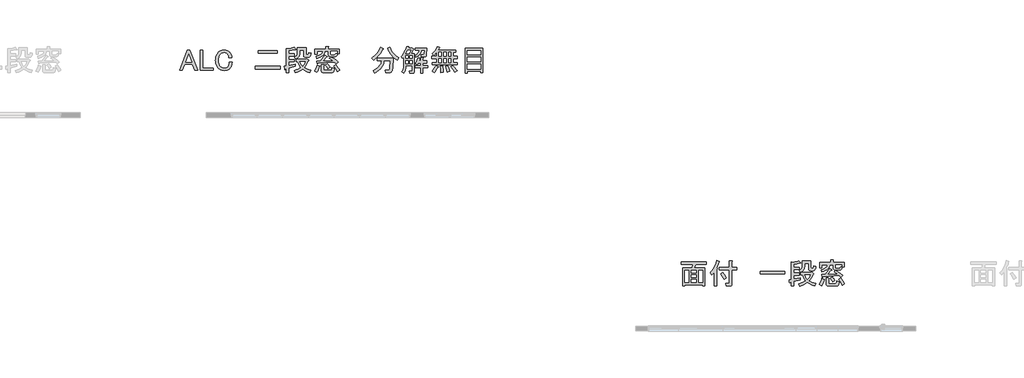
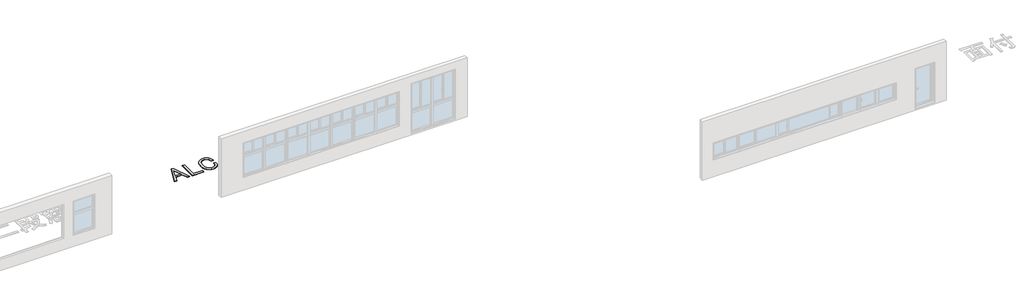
# One storey, part 4 of 9: 2 proxies.
"""IFC4 building model written with IfcOpenShell, lengths in millimetres."""

from ifc_helpers import new_model, si_unit, origin, origin_with_axes, place, context, project, spatial, polyline, outline, extrude, element, save

model = new_model("IFC4")

# Units and contexts
model_context = context("Model", 3, world=origin())
ifc_project = project(units=[si_unit("LENGTHUNIT", "METRE", prefix="MILLI")], contexts=[model_context])

# Site, building, storey
site = spatial("IfcSite", under=ifc_project)
building = spatial("IfcBuilding", under=site)
storey = spatial("IfcBuildingStorey", under=building, Name="レベル 1", Elevation=0.0)

# Proxies
placement = place(None, origin())
element("IfcBuildingElementProxy", 1, Name="600mm Arial", ObjectType="600mm Arial", at=placement, inside=storey, context=model_context, shape_type="SweptSolid", body=[
    extrude(outline(polyline([(63693.1892913, -5796.3801084), (64024.9668273, -4952.2990244), (64122.5484555, -4952.2990244), (64454.3259914, -5796.3801084), (64337.2280376, -5796.3801084), (64234.7673279, -5549.6937523), (63912.7479548, -5549.6937523), (63810.2872452, -5796.3801084), (63693.1892913, -5796.3801084)]), holes=[polyline([(64073.7576414, -5113.3087109), (63946.9015247, -5449.9653283), (64200.6137581, -5449.9653283), (64073.7576414, -5113.3087109)])]), origin_with_axes(), (0.0, 0.0, 1.0), 10.0),
    extrude(outline(polyline([(64563.0319253, -4962.0571872), (64675.2507977, -4962.0571872), (64675.2507977, -5703.6775616), (65124.1262875, -5703.6775616), (65124.1262875, -5803.4059857), (64563.0319253, -5803.4059857), (64563.0319253, -4962.0571872)])), origin_with_axes(), (0.0, 0.0, 1.0), 10.0),
    extrude(outline(polyline([(65208.241651, -5381.6581885), (65210.1475422, -5329.4367703), (65215.8652157, -5280.1123066), (65225.3946716, -5233.6847976), (65238.7359098, -5190.1542431), (65255.8889304, -5149.5206433), (65276.8537334, -5111.783998), (65301.6303186, -5076.9443073), (65330.2186863, -5045.0015712), (65354.2329151, -5023.2744118), (65379.9243282, -5004.4442069), (65407.2929254, -4988.5109567), (65436.338707, -4975.4746611), (65467.0616727, -4965.33532), (65499.4618227, -4958.0929335), (65569.2936754, -4952.2990244), (65638.5156429, -4957.4830484), (65699.8091032, -4973.0351204), (65727.482643, -4984.6991744), (65753.1740561, -4998.9552404), (65776.8833423, -5015.8033183), (65798.6105017, -5035.2434083), (65837.3382104, -5082.2045669), (65865.6978711, -5135.2645773), (65883.6894838, -5194.4234394), (65891.3130485, -5259.6811532), (65774.2150947, -5259.6811532), (65766.59153, -5211.5002243), (65753.4789987, -5169.4181471), (65734.8775008, -5133.4349217), (65710.7870363, -5103.5505481), (65679.9878349, -5077.9353707), (65646.1392076, -5059.6388154), (65609.2411545, -5048.6608822), (65569.2936754, -5045.0015712), (65526.6017131, -5049.2707674), (65486.3492914, -5062.0783561), (65448.5364105, -5083.4243373), (65413.1630703, -5113.3087109), (65392.5794456, -5136.7130546), (65374.7403042, -5163.0143528), (65359.645646, -5192.2126056), (65347.2954712, -5224.307813), (65337.6897797, -5259.299975), (65330.8285715, -5297.1890916), (65325.3396049, -5381.6581885), (65330.8285715, -5466.1272854), (65337.6897797, -5504.016402), (65347.2954712, -5539.008564), (65359.645646, -5571.1037714), (65374.7403042, -5600.3020242), (65392.5794456, -5626.6033225), (65413.1630703, -5650.0076661), (65446.706755, -5677.7574416), (65483.9097507, -5697.5787099), (65524.7720575, -5709.4714708), (65569.2936754, -5713.4357244), (65615.3400062, -5710.081356), (65655.8973705, -5700.0182506), (65690.9657681, -5683.2464082), (65720.5451991, -5659.7658289), (65750.4295728, -5621.952948), (65771.775554, -5576.8214449), (65784.5831427, -5524.3713198), (65788.8523389, -5464.6025725), (65905.9502928, -5464.6025725), (65898.0217855, -5542.9728177), (65889.9408069, -5578.7273361), (65879.115345, -5612.1947852), (65865.5453998, -5643.3751648), (65849.2309714, -5672.268475), (65830.1720596, -5698.8747159), (65808.3686645, -5723.1938873), (65786.4890338, -5742.6339773), (65762.3223337, -5759.4820553), (65735.8685642, -5773.7381213), (65707.1277253, -5785.4021753), (65642.7848392, -5800.9542472), (65569.2936754, -5806.1382712), (65499.4618227, -5800.3443621), (65467.0616727, -5793.1019756), (65436.338707, -5782.9626345), (65407.2929254, -5769.9263389), (65379.9243282, -5753.9930887), (65354.2329151, -5735.1628839), (65330.2186863, -5713.4357244), (65301.6303186, -5681.569224), (65276.8537334, -5646.9582402), (65255.8889304, -5609.6027732), (65238.7359098, -5569.5028228), (65225.3946716, -5526.6583892), (65215.8652157, -5481.0694723), (65210.1475422, -5432.736072), (65208.241651, -5381.6581885)])), origin_with_axes(), (0.0, 0.0, 1.0), 10.0),
    extrude(outline(polyline([(67813.2807979, -4971.81535), (67813.2807979, -5084.0342225), (67013.1114465, -5084.0342225), (67013.1114465, -4971.81535), (67813.2807979, -4971.81535)])), origin_with_axes(), (0.0, 0.0, 1.0), 10.0),
    extrude(outline(polyline([(67935.2578331, -5635.3704219), (67935.2578331, -5747.5892943), (66881.3762484, -5747.5892943), (66881.3762484, -5635.3704219), (67935.2578331, -5635.3704219)])), origin_with_axes(), (0.0, 0.0, 1.0), 10.0),
    extrude(outline(polyline([(69179.4235929, -5903.7198995), (69098.3088644, -5873.5305832), (69020.853447, -5836.6325301), (68947.0573407, -5793.02574), (68876.9205454, -5742.7102129), (68813.4924871, -5789.6713715), (68740.3062659, -5832.973219), (68657.3618819, -5872.6157555), (68564.6593351, -5908.5989809), (68520.7476024, -5806.1382712), (68610.0957808, -5778.0835531), (68687.8561407, -5747.5892943), (68754.0286824, -5714.6554948), (68808.6134057, -5679.2821546), (68765.6165007, -5620.8185616), (68729.3283327, -5559.4031243), (68699.7489017, -5495.0358428), (68676.8782076, -5427.716717), (68603.6919864, -5427.716717), (68603.6919864, -5327.988293), (69033.0511506, -5327.988293), (69052.5674762, -5308.4719673), (69130.6327788, -5371.9000257), (69140.6958842, -5380.7433607), (69141.6107119, -5387.7570403), (69133.3772621, -5392.9410643), (69115.9955345, -5396.2954327), (69077.5727684, -5483.8139555), (69035.4906913, -5560.9644304), (68989.749303, -5627.7468572), (68940.3486038, -5684.161236), (68997.9827529, -5714.9604374), (69063.5454094, -5743.9299833), (69137.0365731, -5771.0698736), (69218.4562442, -5796.3801084), (69179.4235929, -5903.7198995)]), holes=[polyline([(68764.701673, -5427.716717), (68780.8636301, -5475.4341332), (68804.9540946, -5524.322529), (68836.9730664, -5574.3819042), (68876.9205454, -5625.612259), (68915.6482541, -5581.4077815), (68948.8869962, -5533.6903653), (68976.6367717, -5482.4600105), (68998.8975807, -5427.716717), (68764.701673, -5427.716717)])]), origin_with_axes(), (0.0, 0.0, 1.0), 10.0),
    extrude(outline(polyline([(68286.5516947, -4898.6291288), (68346.6253846, -4887.3462531), (68404.8694189, -4873.0139514), (68461.2837977, -4855.6322239), (68515.868521, -4835.2010705), (68584.1756608, -4913.2663731), (68589.0547422, -4923.6344211), (68584.1756608, -4930.343158), (68569.5384165, -4933.3925839), (68545.1430095, -4932.7826987), (68424.3857446, -4958.3978761), (68296.3098575, -4976.6944314), (68296.3098575, -5108.4296295), (68525.6266838, -5108.4296295), (68525.6266838, -5208.1580535), (68296.3098575, -5208.1580535), (68296.3098575, -5342.6255372), (68530.5057652, -5342.6255372), (68530.5057652, -5442.3539613), (68296.3098575, -5442.3539613), (68296.3098575, -5606.0959334), (68574.4174979, -5547.5469565), (68574.4174979, -5635.3704219), (68296.3098575, -5708.556643), (68296.3098575, -5903.7198995), (68196.5814335, -5903.7198995), (68196.5814335, -5728.0729687), (68145.0583338, -5742.7102129), (68141.7039653, -5756.4326294), (68136.5199413, -5763.4463089), (68129.5062618, -5763.7512515), (68120.6629267, -5757.3474571), (68106.0256825, -5635.3704219), (68196.5814335, -5620.7331776), (68196.5814335, -4879.1128032), (68286.5516947, -4898.6291288)])), origin_with_axes(), (0.0, 0.0, 1.0), 10.0),
    extrude(outline(polyline([(69091.6001275, -5152.3413622), (69114.7757642, -5147.4622808), (69121.7894437, -5141.363429), (69125.7536974, -5132.8250366), (69145.270023, -5054.759734), (69237.9725698, -5079.155141), (69229.6628843, -5119.682011), (69219.3710719, -5154.8052983), (69207.0971328, -5184.525003), (69192.8410668, -5208.8411249), (69176.6028739, -5227.7536643), (69158.3825543, -5241.2626209), (69138.1801078, -5249.3679949), (69115.9955345, -5252.0697862), (69013.5348249, -5252.0697862), (68992.4480449, -5250.6640009), (68974.1728356, -5246.4466449), (68958.709197, -5239.4177183), (68946.057129, -5229.5772209), (68936.2166317, -5216.925153), (68929.187705, -5201.4615143), (68924.970349, -5183.186305), (68923.5645637, -5162.099525), (68923.5645637, -4949.5667388), (68754.9435101, -4949.5667388), (68754.9435101, -5093.7923853), (68752.0465556, -5134.6546921), (68743.3556918, -5171.8576878), (68728.8709189, -5205.4013725), (68708.5922367, -5235.2857462), (68682.5196454, -5261.5108088), (68650.653145, -5284.0765603), (68612.9927353, -5302.9830008), (68569.5384165, -5318.2301302), (68530.5057652, -5230.4066648), (68559.7345123, -5221.7920367), (68585.0660931, -5210.5853965), (68606.5005076, -5196.7867444), (68624.0377559, -5180.3960803), (68637.6778379, -5161.4134042), (68647.4207536, -5139.8387161), (68653.266503, -5115.672016), (68655.2150861, -5088.9133039), (68655.2150861, -4849.8383147), (69023.2929877, -4849.8383147), (69023.2929877, -5113.3087109), (69025.4275859, -5130.3854959), (69031.8313802, -5142.5831994), (69042.5043708, -5149.9018215), (69057.4465576, -5152.3413622), (69091.6001275, -5152.3413622)])), origin_with_axes(), (0.0, 0.0, 1.0), 10.0),
    extrude(outline(polyline([(70428.468434, -4913.2663731), (70428.468434, -5103.5505481), (70345.5240501, -5103.5505481), (70329.9719781, -5154.5247511), (70319.6801657, -5174.5503309), (70307.7111691, -5190.9348962), (70294.0649883, -5203.6784469), (70278.7416232, -5212.7809832), (70261.741074, -5218.2425049), (70243.0633404, -5220.0630122), (70038.1419212, -5220.0630122), (70005.1837262, -5214.6106387), (69992.235864, -5207.7951719), (69981.6421584, -5198.2535183), (69973.4026097, -5185.985678), (69967.5172178, -5170.9916509), (69962.8089042, -5132.8250366), (69962.8089042, -5000.5043487), (69818.5832577, -5000.5043487), (69812.255699, -5049.7678238), (69795.7125636, -5095.7806109), (69768.9538515, -5138.5427101), (69731.9795626, -5178.0541212), (69684.7896971, -5214.3148444), (69627.3842549, -5247.3248796), (69559.763236, -5277.0842267), (69481.9266403, -5303.5928859), (69452.6521519, -5210.8903391), (69515.5465607, -5192.2766436), (69570.0550483, -5171.4673613), (69616.1776148, -5148.4624925), (69653.9142601, -5123.262037), (69683.2649842, -5095.8659949), (69704.2297871, -5066.2743661), (69716.8086689, -5034.4871507), (69721.0016295, -5000.5043487), (69491.6848032, -5000.5043487), (69491.6848032, -5127.9459551), (69391.9563791, -5127.9459551), (69391.9563791, -4913.2663731), (69855.4691132, -4913.2663731), (69855.4691132, -4796.1684192), (69950.3184558, -4796.1684192), (69965.2606426, -4799.8277303), (69971.0545518, -4805.926582), (69967.7001833, -4814.4649745), (69955.1975372, -4825.4429077), (69955.1975372, -4913.2663731), (70428.468434, -4913.2663731)]), holes=[polyline([(70213.788852, -5132.8250366), (70229.340924, -5129.1657255), (70241.8435701, -5118.1877923), (70251.2967903, -5099.891237), (70257.7005847, -5074.2760596), (70328.74001, -5093.7923853), (70328.74001, -5000.5043487), (70062.5373282, -5000.5043487), (70062.5373282, -5103.5505481), (70064.3669838, -5116.3581368), (70069.8559503, -5125.5064144), (70079.004228, -5130.995381), (70091.8118167, -5132.8250366), (70213.788852, -5132.8250366)])]), origin_with_axes(), (0.0, 0.0, 1.0), 10.0),
    extrude(outline(polyline([(69760.0342808, -5900.9876139), (69738.9475008, -5899.5818285), (69720.6722915, -5895.3644725), (69705.2086528, -5888.3355459), (69692.5565849, -5878.4950486), (69682.7160875, -5865.8429806), (69675.6871609, -5850.3793419), (69671.4698049, -5832.1041326), (69670.0640195, -5811.0173527), (69670.0640195, -5567.0632821), (69764.9133622, -5567.0632821), (69779.855549, -5570.7225932), (69785.6494582, -5576.8214449), (69782.2950897, -5585.3598374), (69769.7924436, -5596.3377706), (69769.7924436, -5767.10562), (69771.6220991, -5782.0478068), (69777.1110657, -5792.7207974), (69786.2593433, -5799.1245917), (69799.066932, -5801.2591898), (70057.6582468, -5801.2591898), (70069.1698295, -5799.5820056), (70079.3091706, -5794.5504529), (70095.4711278, -5774.4242421), (70106.1441183, -5740.8805574), (70111.3281423, -5693.9193988), (70218.6679334, -5718.3148059), (70213.788852, -5761.1287452), (70206.4702298, -5798.2341594), (70196.712067, -5829.6310482), (70184.5143635, -5855.3194119), (70169.8771193, -5875.2992502), (70152.8003343, -5889.5705634), (70133.2840087, -5898.1333512), (70111.3281423, -5900.9876139), (69760.0342808, -5900.9876139)])), origin_with_axes(), (0.0, 0.0, 1.0), 10.0),
    extrude(outline(polyline([(69525.838373, -5508.5143052), (69522.4840046, -5522.2367217), (69517.2999806, -5529.2504012), (69510.286301, -5529.5553438), (69501.442966, -5523.1515494), (69477.0475589, -5415.8117584), (69628.2990827, -5415.8117584), (69813.7041763, -5157.2204436), (69911.2858045, -5215.7694205), (69911.5907471, -5225.832526), (69907.6264934, -5231.6264351), (69899.3930436, -5233.1511481), (69886.8903974, -5230.4066648), (69721.0016295, -5415.8117584), (70140.6026308, -5391.4163513), (70073.5152614, -5338.9662262), (70008.8674327, -5298.7138045), (70072.2954911, -5245.043909), (70135.1136642, -5274.9282826), (70206.4702298, -5320.6696709), (70286.3651879, -5382.2680737), (70374.7985385, -5459.7234911), (70286.9750731, -5528.0306308), (70218.6679334, -5459.7234911), (69525.838373, -5508.5143052)])), origin_with_axes(), (0.0, 0.0, 1.0), 10.0),
    extrude(outline(polyline([(70277.2169103, -5567.0632821), (70325.7027818, -5621.952948), (70368.6996868, -5679.2821546), (70406.2076251, -5739.0509018), (70438.2265969, -5801.2591898), (70340.6449686, -5864.6872482), (70309.8457672, -5796.3801084), (70275.99714, -5732.9520501), (70239.0990868, -5674.4030732), (70199.1516077, -5620.7331776), (70277.2169103, -5567.0632821)])), origin_with_axes(), (0.0, 0.0, 1.0), 10.0),
    extrude(outline(polyline([(69940.560293, -5723.1938873), (69922.8736228, -5690.2600877), (69899.088101, -5654.8867475), (69833.2205019, -5576.8214449), (69916.1648859, -5523.1515494), (69947.2690299, -5549.9864972), (69977.1534035, -5581.7005264), (70005.8180068, -5618.2936369), (70033.2628398, -5659.7658289), (69940.560293, -5723.1938873)])), origin_with_axes(), (0.0, 0.0, 1.0), 10.0),
    extrude(outline(polyline([(69384.3450121, -5840.2918411), (69420.0232949, -5771.0698736), (69448.9928408, -5704.897332), (69471.2536498, -5641.7742162), (69486.8057218, -5581.7005264), (69584.38735, -5615.8540962), (69591.4010295, -5623.1727183), (69592.9257424, -5630.4913405), (69588.9614888, -5637.8099626), (69579.5082686, -5645.1285847), (69560.6018281, -5711.6060689), (69538.0360766, -5774.4242421), (69511.811014, -5833.5831042), (69481.9266403, -5889.0826552), (69384.3450121, -5840.2918411)])), origin_with_axes(), (0.0, 0.0, 1.0), 10.0),
    extrude(outline(polyline([(72691.1912291, -5293.8347231), (72671.6749035, -5689.0403174), (72667.3294716, -5738.2123097), (72659.1722573, -5780.8280364), (72647.2032608, -5816.8874975), (72631.4224818, -5846.3906929), (72611.8299205, -5869.3376226), (72588.4255769, -5885.7282868), (72561.2094509, -5895.5626852), (72530.1815425, -5898.8408181), (72383.8091002, -5898.8408181), (72369.171856, -5786.6219456), (72491.1488913, -5786.6219456), (72519.2036094, -5781.4379216), (72539.9397054, -5765.8858496), (72553.3571792, -5739.9657296), (72559.456031, -5703.6775616), (72578.9723567, -5393.5631472), (72310.6228791, -5393.5631472), (72305.7437976, -5425.5699212), (72292.2500881, -5491.9711698), (72268.8457445, -5557.0001767), (72235.5307667, -5620.656942), (72192.3051548, -5682.9414656), (72139.1689089, -5743.8537476), (72076.1220288, -5803.393788), (72003.1645145, -5861.5615866), (71920.2963662, -5918.3571437), (71847.110145, -5825.6545969), (71921.9735504, -5780.2181513), (71987.9936208, -5734.1718204), (72045.1703561, -5687.5156044), (72093.5037563, -5640.2495033), (72132.9938214, -5592.3735169), (72163.6405516, -5543.8876454), (72185.4439466, -5494.7918887), (72198.4040066, -5445.0862469), (72208.1621694, -5393.5631472), (72022.7570758, -5393.5631472), (72022.7570758, -5293.8347231), (72691.1912291, -5293.8347231)])), origin_with_axes(), (0.0, 0.0, 1.0), 10.0),
    extrude(outline(polyline([(72252.0739021, -4908.3872917), (72220.5885799, -4971.1292292), (72184.6815901, -5032.4989251), (72144.3529329, -5092.4963793), (72099.602608, -5151.1215919), (72050.4306157, -5208.3745628), (71996.8369558, -5264.2552921), (71938.8216284, -5318.7637797), (71876.3846335, -5371.9000257), (71798.3193309, -5279.1974789), (71859.6127912, -5233.6847976), (71916.6370551, -5184.9702191), (71969.3921229, -5133.0537435), (72017.8779944, -5077.9353707), (72062.0946697, -5019.6151007), (72102.0421487, -4958.0929335), (72137.7204316, -4893.3688692), (72169.1295181, -4825.4429077), (72261.832065, -4883.9918846), (72272.200113, -4892.8352197), (72274.0297685, -4899.8488992), (72267.3210315, -4905.0329232), (72252.0739021, -4908.3872917)])), origin_with_axes(), (0.0, 0.0, 1.0), 10.0),
    extrude(outline(polyline([(72857.0799971, -5371.9000257), (72792.2034614, -5329.7417129), (72731.7485933, -5281.332077), (72675.7153928, -5226.6711181), (72624.1038597, -5165.7588361), (72576.9139942, -5098.595231), (72534.1457962, -5025.1803029), (72495.7992657, -4945.5140518), (72461.8744028, -4859.5964776), (72554.5769496, -4820.5638263), (72586.0622718, -4895.8846455), (72621.9692616, -4965.7164982), (72662.2979189, -5030.0593843), (72707.0482437, -5088.9133039), (72756.220236, -5142.2782568), (72809.8138959, -5190.1542431), (72867.8292233, -5232.5412629), (72930.2662182, -5269.4393161), (72857.0799971, -5371.9000257)])), origin_with_axes(), (0.0, 0.0, 1.0), 10.0),
    extrude(outline(polyline([(73145.5312901, -5225.5275834), (73111.2801386, -5268.2195457), (73081.517742, -5298.7138045), (73032.7269279, -5215.7694205), (73068.328975, -5176.2031197), (73101.9488954, -5133.1299791), (73133.5866889, -5086.5499988), (73163.2423556, -5036.4631787), (73190.9158955, -4982.8695188), (73216.6073085, -4925.7690192), (73262.0437542, -4801.0475006), (73349.8672196, -4810.8056634), (73354.746301, -4818.1242856), (73354.746301, -4825.4429077), (73349.8672196, -4832.7615298), (73340.1090567, -4840.0801519), (73325.4718125, -4874.2337218), (73447.4488478, -4874.2337218), (73466.9651734, -4849.8383147), (73554.7886388, -4908.3872917), (73530.3932318, -4937.6617801), (73447.4488478, -5093.7923853), (73579.1840459, -5093.7923853), (73579.1840459, -5840.2918411), (73574.609907, -5879.6538304), (73568.8922335, -5895.1174691), (73560.8874906, -5907.769537), (73550.5956782, -5917.6100344), (73538.0167965, -5924.638961), (73505.9978247, -5930.2621023), (73398.6580337, -5930.2621023), (73379.141708, -5830.5336783), (73476.7233362, -5830.5336783), (73488.1403867, -5825.6545969), (73491.9460702, -5811.0173527), (73491.9460702, -5600.6313622), (73232.7692657, -5600.6313622), (73231.1683171, -5648.0407864), (73226.3654713, -5693.0777573), (73218.3607284, -5735.7422748), (73207.1540883, -5776.0343389), (73192.745551, -5813.9539498), (73175.1351165, -5849.5011073), (73154.3227849, -5882.6758115), (73130.3085561, -5913.4780623), (73057.1223349, -5854.9290854), (73077.8431838, -5827.4842524), (73095.8012528, -5796.3801084), (73110.996542, -5761.6166534), (73123.4290513, -5723.1938873), (73133.0987808, -5681.1118101), (73140.0057304, -5635.3704219), (73145.5312901, -5532.9097122), (73145.5312901, -5225.5275834)]), holes=[polyline([(73301.0764054, -4961.4716974), (73274.2414577, -5019.6303478), (73232.7692657, -5093.7923853), (73364.5044638, -5093.7923853), (73427.9325221, -4961.4716974), (73301.0764054, -4961.4716974)]), polyline([(73398.6580337, -5513.3933866), (73491.9460702, -5513.3933866), (73491.9460702, -5385.9517802), (73398.6580337, -5385.9517802), (73398.6580337, -5513.3933866)]), polyline([(73323.9105065, -5513.3933866), (73323.9105065, -5385.9517802), (73232.7692657, -5385.9517802), (73232.7692657, -5513.3933866), (73323.9105065, -5513.3933866)]), polyline([(73232.7692657, -5181.0303609), (73232.7692657, -5298.7138045), (73323.9105065, -5298.7138045), (73323.9105065, -5181.0303609), (73232.7692657, -5181.0303609)]), polyline([(73398.6580337, -5181.0303609), (73398.6580337, -5298.7138045), (73491.9460702, -5298.7138045), (73491.9460702, -5181.0303609), (73398.6580337, -5181.0303609)])]), origin_with_axes(), (0.0, 0.0, 1.0), 10.0),
    extrude(outline(polyline([(73871.9289305, -5132.8250366), (73969.5105587, -5132.8250366), (73984.7576881, -5130.995381), (73996.3455065, -5125.5064144), (74004.2740138, -5116.3581368), (74008.54321, -5103.5505481), (74023.1804542, -4946.8344532), (73876.8080119, -4946.8344532), (73868.9557403, -5000.3579763), (73855.1570882, -5049.5879077), (73835.4120556, -5094.5242475), (73809.7206425, -5135.1669956), (73778.082849, -5171.5161521), (73740.498675, -5203.571717), (73696.9681205, -5231.3336902), (73647.4911856, -5254.8020718), (73608.4585343, -5171.8576878), (73648.6347203, -5153.9972005), (73683.7793536, -5133.2031654), (73713.8924342, -5109.4755826), (73738.9739621, -5082.8144521), (73759.0239372, -5053.2197739), (73774.0423597, -5020.691548), (73784.0292295, -4985.2297745), (73788.9845465, -4946.8344532), (73632.8539414, -4946.8344532), (73632.8539414, -4859.5964776), (74115.883001, -4859.5964776), (74091.487594, -5142.5831994), (74084.4739145, -5181.9451887), (74077.5364706, -5197.4088273), (74068.3119573, -5210.0608953), (74056.8003746, -5219.9013926), (74043.0017225, -5226.9303193), (74008.54321, -5232.5534606), (73881.6870933, -5232.5534606), (73871.9289305, -5132.8250366)])), origin_with_axes(), (0.0, 0.0, 1.0), 10.0),
    extrude(outline(polyline([(73945.1151517, -5696.0661946), (73945.1151517, -5918.3571437), (73857.877176, -5918.3571437), (73857.877176, -5696.0661946), (73623.0957786, -5696.0661946), (73623.0957786, -5596.3377706), (73857.877176, -5596.3377706), (73857.877176, -5491.1447754), (73754.8309767, -5491.1447754), (73701.1610811, -5571.9423635), (73627.97486, -5518.272468), (73663.3482002, -5465.2124577), (73691.4029183, -5408.4931363), (73712.1390143, -5348.1145038), (73725.5564882, -5284.0765603), (73813.3799536, -5298.7138045), (73818.259035, -5306.0324266), (73818.259035, -5313.3510488), (73813.3799536, -5320.6696709), (73803.6217908, -5327.988293), (73784.1054651, -5391.4163513), (73857.877176, -5391.4163513), (73857.877176, -5269.4393161), (73940.2360703, -5269.4393161), (73955.1782571, -5273.0986271), (73960.9721663, -5279.1974789), (73957.6177978, -5287.7358714), (73945.1151517, -5298.7138045), (73945.1151517, -5391.4163513), (74115.883001, -5391.4163513), (74115.883001, -5491.1447754), (73945.1151517, -5491.1447754), (73945.1151517, -5596.3377706), (74159.7947337, -5596.3377706), (74159.7947337, -5696.0661946), (73945.1151517, -5696.0661946)])), origin_with_axes(), (0.0, 0.0, 1.0), 10.0),
    extrude(outline(polyline([(75296.6207025, -5879.3244924), (75214.8960888, -5769.5451607), (75116.0946903, -5654.8867475), (75194.1599928, -5601.216852), (75240.8162088, -5641.7742162), (75288.08231, -5690.2600877), (75335.9582963, -5746.6744666), (75384.4441679, -5811.0173527), (75296.6207025, -5879.3244924)])), origin_with_axes(), (0.0, 0.0, 1.0), 10.0),
    extrude(outline(polyline([(74584.2748165, -4942.5408615), (75330.7742723, -4942.5408615), (75330.7742723, -5042.2692856), (75228.3135627, -5042.2692856), (75228.3135627, -5206.0112577), (75399.0814121, -5206.0112577), (75399.0814121, -5305.7396818), (75228.3135627, -5305.7396818), (75228.3135627, -5469.4816539), (75384.4441679, -5469.4816539), (75384.4441679, -5569.2100779), (74335.4416645, -5569.2100779), (74335.4416645, -5469.4816539), (74523.5790437, -5469.4816539), (74523.5790437, -5305.7396818), (74320.8044203, -5305.7396818), (74320.8044203, -5206.0112577), (74523.5790437, -5206.0112577), (74523.5790437, -5040.1224898), (74490.3037085, -5085.2539928), (74457.6138631, -5123.0668737), (74425.5095074, -5153.5611326), (74393.9906415, -5176.7367693), (74335.4416645, -5093.7923853), (74401.6142062, -5033.4137528), (74458.6384702, -4964.4967279), (74506.5144565, -4887.0413105), (74545.2421652, -4801.0475006), (74642.8237934, -4830.3219891), (74649.2275878, -4839.1653241), (74648.9226452, -4846.1790037), (74641.9089656, -4851.3630277), (74628.1865492, -4854.7173961), (74584.2748165, -4942.5408615)]), holes=[polyline([(75028.2712249, -5042.2692856), (75028.2712249, -5206.0112577), (75128.5851387, -5206.0112577), (75128.5851387, -5042.2692856), (75028.2712249, -5042.2692856)]), polyline([(74823.3498056, -5042.2692856), (74823.3498056, -5206.0112577), (74928.5428008, -5206.0112577), (74928.5428008, -5042.2692856), (74823.3498056, -5042.2692856)]), polyline([(74623.3074678, -5206.0112577), (74723.6213816, -5206.0112577), (74723.6213816, -5042.2692856), (74623.3074678, -5042.2692856), (74623.3074678, -5206.0112577)]), polyline([(75028.2712249, -5469.4816539), (75128.5851387, -5469.4816539), (75128.5851387, -5305.7396818), (75028.2712249, -5305.7396818), (75028.2712249, -5469.4816539)]), polyline([(74823.3498056, -5305.7396818), (74823.3498056, -5469.4816539), (74928.5428008, -5469.4816539), (74928.5428008, -5305.7396818), (74823.3498056, -5305.7396818)]), polyline([(74623.3074678, -5305.7396818), (74623.3074678, -5469.4816539), (74723.6213816, -5469.4816539), (74723.6213816, -5305.7396818), (74623.3074678, -5305.7396818)])]), origin_with_axes(), (0.0, 0.0, 1.0), 10.0),
    extrude(outline(polyline([(74974.6013293, -5879.3244924), (74936.7884484, -5739.0509018), (74901.4151082, -5630.4913405), (74998.9967364, -5601.216852), (75039.249158, -5708.556643), (75081.9411204, -5845.1709225), (74974.6013293, -5879.3244924)])), origin_with_axes(), (0.0, 0.0, 1.0), 10.0),
    extrude(outline(polyline([(74594.0329793, -5645.1285847), (74600.4367737, -5653.9719197), (74600.1318311, -5660.9855993), (74593.1181515, -5666.1696233), (74579.3957351, -5669.5239917), (74538.2284857, -5740.5756148), (74497.6711214, -5802.4789602), (74457.7236424, -5855.2340279), (74418.3860485, -5898.8408181), (74340.3207459, -5830.5336783), (74388.8066175, -5771.9847014), (74431.8035224, -5713.4357244), (74469.3114607, -5654.8867475), (74501.3304325, -5596.3377706), (74594.0329793, -5645.1285847)])), origin_with_axes(), (0.0, 0.0, 1.0), 10.0),
    extrude(outline(polyline([(74779.4380729, -5610.9750148), (74791.940719, -5681.4167527), (74800.1741689, -5751.2486054), (74804.1384226, -5820.4705729), (74803.83348, -5889.0826552), (74696.4936889, -5898.8408181), (74691.6146075, -5752.4683757), (74676.9773633, -5615.8540962), (74779.4380729, -5610.9750148)])), origin_with_axes(), (0.0, 0.0, 1.0), 10.0),
    extrude(outline(polyline([(76472.4793225, -5893.9617366), (76372.7508984, -5893.9617366), (76372.7508984, -5842.4386369), (75823.5614948, -5842.4386369), (75823.5614948, -5913.4780623), (75723.8330708, -5913.4780623), (75723.8330708, -4864.475559), (76472.4793225, -4864.475559), (76472.4793225, -5893.9617366)]), holes=[polyline([(76372.7508984, -5147.4622808), (76372.7508984, -4964.203983), (75823.5614948, -4964.203983), (75823.5614948, -5147.4622808), (76372.7508984, -5147.4622808)]), polyline([(76372.7508984, -5435.328084), (76372.7508984, -5247.1907048), (75823.5614948, -5247.1907048), (75823.5614948, -5435.328084), (76372.7508984, -5435.328084)]), polyline([(76372.7508984, -5742.7102129), (76372.7508984, -5535.0565081), (75823.5614948, -5535.0565081), (75823.5614948, -5742.7102129), (76372.7508984, -5742.7102129)])]), origin_with_axes(), (0.0, 0.0, 1.0), 10.0),
])
element("IfcBuildingElementProxy", 2, Name="600mm Arial", ObjectType="600mm Arial", at=placement, inside=storey, context=model_context, shape_type="SweptSolid", body=[
    extrude(outline(polyline([(85826.523268, -14884.2035738), (85726.794844, -14884.2035738), (85726.794844, -14842.4386369), (84982.442184, -14842.4386369), (84982.442184, -14903.7198995), (84882.7137599, -14903.7198995), (84882.7137599, -14132.8250366), (85284.9452314, -14132.8250366), (85323.9778827, -13978.8412272), (84826.3115788, -13978.8412272), (84826.3115788, -13879.1128032), (85885.072245, -13879.1128032), (85885.072245, -13978.8412272), (85436.1967552, -13978.8412272), (85382.5268597, -14132.8250366), (85826.523268, -14132.8250366), (85826.523268, -14884.2035738)]), holes=[polyline([(85151.0632375, -14742.7102129), (85151.0632375, -14232.5534606), (84982.442184, -14232.5534606), (84982.442184, -14742.7102129), (85151.0632375, -14742.7102129)]), polyline([(85458.4453664, -14742.7102129), (85458.4453664, -14629.9058507), (85250.7916616, -14629.9058507), (85250.7916616, -14742.7102129), (85458.4453664, -14742.7102129)]), polyline([(85458.4453664, -14542.6678751), (85458.4453664, -14439.6216757), (85250.7916616, -14439.6216757), (85250.7916616, -14542.6678751), (85458.4453664, -14542.6678751)]), polyline([(85458.4453664, -14232.5534606), (85250.7916616, -14232.5534606), (85250.7916616, -14352.3837), (85458.4453664, -14352.3837), (85458.4453664, -14232.5534606)]), polyline([(85726.794844, -14232.5534606), (85558.1737904, -14232.5534606), (85558.1737904, -14742.7102129), (85726.794844, -14742.7102129), (85726.794844, -14232.5534606)])]), origin_with_axes(), (0.0, 0.0, 1.0), 10.0),
    extrude(outline(polyline([(86407.1339559, -13898.6291288), (86390.6670562, -13959.6176465), (86370.5408453, -14020.6061641), (86346.7553235, -14081.5946817), (86319.3104905, -14142.5831994), (86338.216931, -14148.6820511), (86346.1454383, -14157.2204436), (86343.0960124, -14168.1983768), (86329.0686533, -14181.6158507), (86329.0686533, -14903.7198995), (86229.3402293, -14903.7198995), (86229.3402293, -14298.7138045), (86176.7925225, -14370.6802553), (86124.1472341, -14430.4490026), (86046.0819315, -14342.6255372), (86096.2449873, -14290.8615329), (86141.8339042, -14235.5906888), (86182.8486823, -14176.8130049), (86219.2893216, -14114.5284813), (86251.1558221, -14048.7371179), (86278.4481837, -13979.4389147), (86301.1664065, -13906.6338718), (86319.3104905, -13830.3219891), (86421.7712002, -13869.3546404), (86428.1749945, -13878.502918), (86427.8700519, -13886.4314253), (86420.8563724, -13893.1401623), (86407.1339559, -13898.6291288)])), origin_with_axes(), (0.0, 0.0, 1.0), 10.0),
    extrude(outline(polyline([(86858.7417313, -14113.3087109), (86858.7417313, -13835.2010705), (86953.5910739, -13835.2010705), (86968.5332607, -13838.8603816), (86974.3271699, -13844.9592333), (86970.9728015, -13853.4976258), (86958.4701553, -13864.475559), (86958.4701553, -14113.3087109), (87158.5124932, -14113.3087109), (87158.5124932, -14213.037135), (86958.4701553, -14213.037135), (86958.4701553, -14811.0173527), (86953.5910739, -14848.2447438), (86947.4922222, -14862.8697904), (86938.9538297, -14874.8357375), (86927.9758965, -14884.1425853), (86914.5584226, -14890.7903337), (86880.4048528, -14896.1085325), (86734.0324104, -14896.1085325), (86709.6370034, -14796.3801084), (86841.3722015, -14796.3801084), (86854.3993488, -14791.501027), (86858.7417313, -14776.8637828), (86858.7417313, -14213.037135), (86421.7712002, -14213.037135), (86421.7712002, -14113.3087109), (86858.7417313, -14113.3087109)])), origin_with_axes(), (0.0, 0.0, 1.0), 10.0),
    extrude(outline(polyline([(86577.9018053, -14332.8673744), (86618.4591695, -14385.6224422), (86657.1868782, -14441.4269358), (86729.153329, -14562.1842007), (86631.5717008, -14625.612259), (86596.8082458, -14557.9150045), (86560.8250204, -14496.3166017), (86523.6220246, -14440.8170506), (86485.1992585, -14391.4163513), (86577.9018053, -14332.8673744)])), origin_with_axes(), (0.0, 0.0, 1.0), 10.0),
    extrude(outline(polyline([(89183.1361154, -14274.3183975), (89183.1361154, -14386.5372699), (88153.6499377, -14386.5372699), (88153.6499377, -14274.3183975), (89183.1361154, -14274.3183975)])), origin_with_axes(), (0.0, 0.0, 1.0), 10.0),
    extrude(outline(polyline([(90358.9947354, -14152.3413622), (90382.1703721, -14147.4622808), (90389.1840516, -14141.363429), (90393.1483053, -14132.8250366), (90412.6646309, -14054.759734), (90505.3671777, -14079.155141), (90497.0574922, -14119.682011), (90486.7656798, -14154.8052983), (90474.4917407, -14184.525003), (90460.2356747, -14208.8411249), (90443.9974818, -14227.7536643), (90425.7771622, -14241.2626209), (90405.5747157, -14249.3679949), (90383.3901424, -14252.0697862), (90280.9294328, -14252.0697862), (90259.8426529, -14250.6640009), (90241.5674435, -14246.4466449), (90226.1038049, -14239.4177183), (90213.4517369, -14229.5772209), (90203.6112396, -14216.925153), (90196.5823129, -14201.4615143), (90192.3649569, -14183.186305), (90190.9591716, -14162.099525), (90190.9591716, -13949.5667388), (90022.3381181, -13949.5667388), (90022.3381181, -14093.7923853), (90019.4411635, -14134.6546921), (90010.7502997, -14171.8576878), (89996.2655268, -14205.4013725), (89975.9868446, -14235.2857462), (89949.9142534, -14261.5108088), (89918.0477529, -14284.0765603), (89880.3873433, -14302.9830008), (89836.9330244, -14318.2301302), (89797.9003732, -14230.4066648), (89827.1291202, -14221.7920367), (89852.460701, -14210.5853965), (89873.8951156, -14196.7867444), (89891.4323638, -14180.3960803), (89905.0724458, -14161.4134042), (89914.8153615, -14139.8387161), (89920.6611109, -14115.672016), (89922.609694, -14088.9133039), (89922.609694, -13849.8383147), (90290.6875956, -13849.8383147), (90290.6875956, -14113.3087109), (90292.8221938, -14130.3854959), (90299.2259881, -14142.5831994), (90309.8989787, -14149.9018215), (90324.8411655, -14152.3413622), (90358.9947354, -14152.3413622)])), origin_with_axes(), (0.0, 0.0, 1.0), 10.0),
    extrude(outline(polyline([(89553.9463026, -13898.6291288), (89614.0199925, -13887.3462531), (89672.2640268, -13873.0139514), (89728.6784056, -13855.6322239), (89783.2631289, -13835.2010705), (89851.5702687, -13913.2663731), (89856.4493501, -13923.6344211), (89851.5702687, -13930.343158), (89836.9330244, -13933.3925839), (89812.5376174, -13932.7826987), (89691.7803525, -13958.3978761), (89563.7044654, -13976.6944314), (89563.7044654, -14108.4296295), (89793.0212917, -14108.4296295), (89793.0212917, -14208.1580535), (89563.7044654, -14208.1580535), (89563.7044654, -14342.6255372), (89797.9003732, -14342.6255372), (89797.9003732, -14442.3539613), (89563.7044654, -14442.3539613), (89563.7044654, -14606.0959334), (89841.8121059, -14547.5469565), (89841.8121059, -14635.3704219), (89563.7044654, -14708.556643), (89563.7044654, -14903.7198995), (89463.9760414, -14903.7198995), (89463.9760414, -14728.0729687), (89412.4529417, -14742.7102129), (89409.0985732, -14756.4326294), (89403.9145492, -14763.4463089), (89396.9008697, -14763.7512515), (89388.0575346, -14757.3474571), (89373.4202904, -14635.3704219), (89463.9760414, -14620.7331776), (89463.9760414, -13879.1128032), (89553.9463026, -13898.6291288)])), origin_with_axes(), (0.0, 0.0, 1.0), 10.0),
    extrude(outline(polyline([(90446.8182008, -14903.7198995), (90365.7034723, -14873.5305832), (90288.2480549, -14836.6325301), (90214.4519486, -14793.02574), (90144.3151533, -14742.7102129), (90080.887095, -14789.6713715), (90007.7008738, -14832.973219), (89924.7564898, -14872.6157555), (89832.053943, -14908.5989809), (89788.1422103, -14806.1382712), (89877.4903887, -14778.0835531), (89955.2507487, -14747.5892943), (90021.4232903, -14714.6554948), (90076.0080136, -14679.2821546), (90033.0111086, -14620.8185616), (89996.7229406, -14559.4031243), (89967.1435096, -14495.0358428), (89944.2728155, -14427.716717), (89871.0865943, -14427.716717), (89871.0865943, -14327.988293), (90300.4457585, -14327.988293), (90319.9620841, -14308.4719673), (90398.0273867, -14371.9000257), (90408.0904921, -14380.7433607), (90409.0053199, -14387.7570403), (90400.77187, -14392.9410643), (90383.3901424, -14396.2954327), (90344.9673763, -14483.8139555), (90302.8852992, -14560.9644304), (90257.1439109, -14627.7468572), (90207.7432117, -14684.161236), (90265.3773608, -14714.9604374), (90330.9400173, -14743.9299833), (90404.431181, -14771.0698736), (90485.8508521, -14796.3801084), (90446.8182008, -14903.7198995)]), holes=[polyline([(90032.0962809, -14427.716717), (90048.258238, -14475.4341332), (90072.3487025, -14524.322529), (90104.3676743, -14574.3819042), (90144.3151533, -14625.612259), (90183.042862, -14581.4077815), (90216.2816041, -14533.6903653), (90244.0313797, -14482.4600105), (90266.2921886, -14427.716717), (90032.0962809, -14427.716717)])]), origin_with_axes(), (0.0, 0.0, 1.0), 10.0),
    extrude(outline(polyline([(91027.4288887, -14900.9876139), (91006.3421087, -14899.5818285), (90988.0668994, -14895.3644725), (90972.6032607, -14888.3355459), (90959.9511928, -14878.4950486), (90950.1106954, -14865.8429806), (90943.0817688, -14850.3793419), (90938.8644128, -14832.1041326), (90937.4586275, -14811.0173527), (90937.4586275, -14567.0632821), (91032.3079701, -14567.0632821), (91047.2501569, -14570.7225932), (91053.0440661, -14576.8214449), (91049.6896976, -14585.3598374), (91037.1870515, -14596.3377706), (91037.1870515, -14767.10562), (91039.016707, -14782.0478068), (91044.5056736, -14792.7207974), (91053.6539513, -14799.1245917), (91066.46154, -14801.2591898), (91325.0528547, -14801.2591898), (91336.5644374, -14799.5820056), (91346.7037785, -14794.5504529), (91362.8657357, -14774.4242421), (91373.5387262, -14740.8805574), (91378.7227502, -14693.9193988), (91486.0625413, -14718.3148059), (91481.1834599, -14761.1287452), (91473.8648378, -14798.2341594), (91464.1066749, -14829.6310482), (91451.9089714, -14855.3194119), (91437.2717272, -14875.2992502), (91420.1949422, -14889.5705634), (91400.6786166, -14898.1333512), (91378.7227502, -14900.9876139), (91027.4288887, -14900.9876139)])), origin_with_axes(), (0.0, 0.0, 1.0), 10.0),
    extrude(outline(polyline([(90793.232981, -14508.5143052), (90789.8786125, -14522.2367217), (90784.6945885, -14529.2504012), (90777.680909, -14529.5553438), (90768.8375739, -14523.1515494), (90744.4421668, -14415.8117584), (90895.6936906, -14415.8117584), (91081.0987842, -14157.2204436), (91178.6804124, -14215.7694205), (91178.985355, -14225.832526), (91175.0211013, -14231.6264351), (91166.7876515, -14233.1511481), (91154.2850054, -14230.4066648), (90988.3962374, -14415.8117584), (91407.9972387, -14391.4163513), (91340.9098693, -14338.9662262), (91276.2620406, -14298.7138045), (91339.690099, -14245.043909), (91402.5082721, -14274.9282826), (91473.8648378, -14320.6696709), (91553.7597959, -14382.2680737), (91642.1931464, -14459.7234911), (91554.369681, -14528.0306308), (91486.0625413, -14459.7234911), (90793.232981, -14508.5143052)])), origin_with_axes(), (0.0, 0.0, 1.0), 10.0),
    extrude(outline(polyline([(91544.6115182, -14567.0632821), (91593.0973897, -14621.952948), (91636.0942947, -14679.2821546), (91673.602233, -14739.0509018), (91705.6212048, -14801.2591898), (91608.0395766, -14864.6872482), (91577.2403751, -14796.3801084), (91543.3917479, -14732.9520501), (91506.4936947, -14674.4030732), (91466.5462156, -14620.7331776), (91544.6115182, -14567.0632821)])), origin_with_axes(), (0.0, 0.0, 1.0), 10.0),
    extrude(outline(polyline([(91207.9549009, -14723.1938873), (91190.2682308, -14690.2600877), (91166.4827089, -14654.8867475), (91100.6151098, -14576.8214449), (91183.5594938, -14523.1515494), (91214.6636378, -14549.9864972), (91244.5480115, -14581.7005264), (91273.2126147, -14618.2936369), (91300.6574477, -14659.7658289), (91207.9549009, -14723.1938873)])), origin_with_axes(), (0.0, 0.0, 1.0), 10.0),
    extrude(outline(polyline([(90651.73962, -14840.2918411), (90687.4179029, -14771.0698736), (90716.3874487, -14704.897332), (90738.6482577, -14641.7742162), (90754.2003297, -14581.7005264), (90851.7819579, -14615.8540962), (90858.7956374, -14623.1727183), (90860.3203504, -14630.4913405), (90856.3560967, -14637.8099626), (90846.9028765, -14645.1285847), (90827.996436, -14711.6060689), (90805.4306845, -14774.4242421), (90779.2056219, -14833.5831042), (90749.3212483, -14889.0826552), (90651.73962, -14840.2918411)])), origin_with_axes(), (0.0, 0.0, 1.0), 10.0),
    extrude(outline(polyline([(91695.8630419, -13913.2663731), (91695.8630419, -14103.5505481), (91612.918658, -14103.5505481), (91597.366586, -14154.5247511), (91587.0747736, -14174.5503309), (91575.105777, -14190.9348962), (91561.4595962, -14203.6784469), (91546.1362312, -14212.7809832), (91529.1356819, -14218.2425049), (91510.4579483, -14220.0630122), (91305.5365291, -14220.0630122), (91272.5783342, -14214.6106387), (91259.6304719, -14207.7951719), (91249.0367663, -14198.2535183), (91240.7972176, -14185.985678), (91234.9118257, -14170.9916509), (91230.2035121, -14132.8250366), (91230.2035121, -14000.5043487), (91085.9778656, -14000.5043487), (91079.6503069, -14049.7678238), (91063.1071715, -14095.7806109), (91036.3484594, -14138.5427101), (90999.3741706, -14178.0541212), (90952.184305, -14214.3148444), (90894.7788628, -14247.3248796), (90827.1578439, -14277.0842267), (90749.3212483, -14303.5928859), (90720.0467598, -14210.8903391), (90782.9411686, -14192.2766436), (90837.4496562, -14171.4673613), (90883.5722227, -14148.4624925), (90921.308868, -14123.262037), (90950.6595921, -14095.8659949), (90971.624395, -14066.2743661), (90984.2032768, -14034.4871507), (90988.3962374, -14000.5043487), (90759.0794111, -14000.5043487), (90759.0794111, -14127.9459551), (90659.350987, -14127.9459551), (90659.350987, -13913.2663731), (91122.8637211, -13913.2663731), (91122.8637211, -13796.1684192), (91217.7130637, -13796.1684192), (91232.6552505, -13799.8277303), (91238.4491597, -13805.926582), (91235.0947912, -13814.4649745), (91222.5921451, -13825.4429077), (91222.5921451, -13913.2663731), (91695.8630419, -13913.2663731)]), holes=[polyline([(91481.1834599, -14132.8250366), (91496.7355319, -14129.1657255), (91509.238178, -14118.1877923), (91518.6913982, -14099.891237), (91525.0951926, -14074.2760596), (91596.1346179, -14093.7923853), (91596.1346179, -14000.5043487), (91329.9319361, -14000.5043487), (91329.9319361, -14103.5505481), (91331.7615917, -14116.3581368), (91337.2505583, -14125.5064144), (91346.3988359, -14130.995381), (91359.2064246, -14132.8250366), (91481.1834599, -14132.8250366)])]), origin_with_axes(), (0.0, 0.0, 1.0), 10.0),
])

save(model, "model.ifc")
